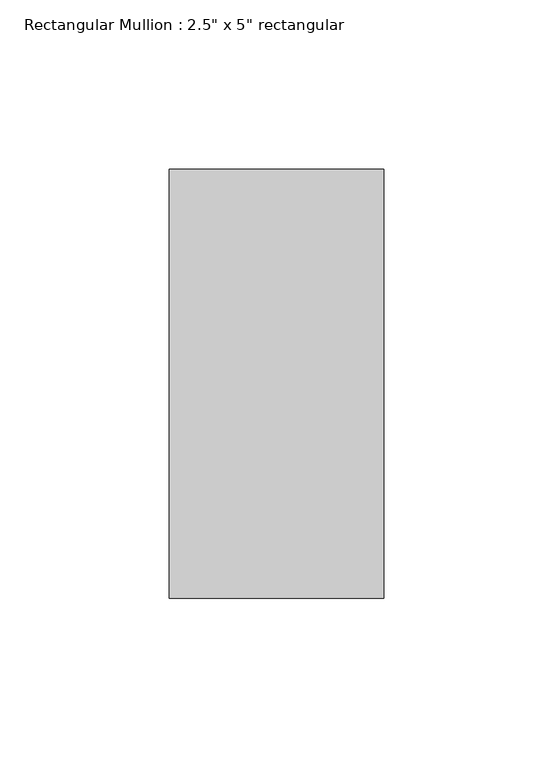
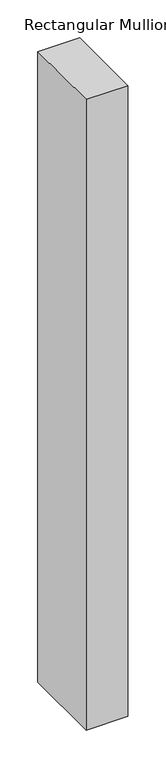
"""IFC4 building model written with IfcOpenShell, lengths in millimetres: member geometry."""

import ifcopenshell
import ifcopenshell.guid

model = None  # the IFC model being written
_history = None  # IfcOwnerHistory: only IFC2X3 demands one
_inside = {}  # id of a spatial element -> (the spatial element, [elements in it])
_under = {}  # id of a project, library or spatial element -> (it, [spatial elements below it])
_declared = {}  # id of a project -> (the project, [libraries it declares])
_typed = {}  # id of a type object -> (the type object, [elements of that type])
_made_of = {}  # id of a material, layer set ... -> (it, [elements and type objects made of it])


def new_model(schema):
    """Start an empty IFC model of exactly this schema.

    Asked for "IFC4X3", IfcOpenShell would pick the latest addendum, in which some entities
    have other attributes; the version numbers below select the first issue.
    IFC2X3 requires an IfcOwnerHistory on every rooted entity: one is made here for all.
    """
    global model, _history
    if schema == "IFC4X3":
        model = ifcopenshell.file(schema_version=(4, 3, 0, 0))
    else:
        model = ifcopenshell.file(schema=schema)
    _inside.clear()
    _under.clear()
    _declared.clear()
    _typed.clear()
    _made_of.clear()
    _history = None
    if model.schema == "IFC2X3":
        org = make("IfcOrganization", Name="unknown")
        user = make(
            "IfcPersonAndOrganization",
            ThePerson=make("IfcPerson", FamilyName="unknown"),
            TheOrganization=org,
        )
        app = make(
            "IfcApplication",
            ApplicationDeveloper=org,
            Version="unknown",
            ApplicationFullName="unknown",
            ApplicationIdentifier="unknown",
        )
        _history = make(
            "IfcOwnerHistory",
            OwningUser=user,
            OwningApplication=app,
            ChangeAction="ADDED",
            CreationDate=0,
        )
    return model


def make(cls, **values):
    """One entity of the class cls with the attributes given. An attribute that is None is left unset."""
    return model.create_entity(
        cls, **{name: value for name, value in values.items() if value is not None}
    )


def rooted(cls, **values):
    """An entity with a GlobalId (a new one), such as an element, a storey or a relation."""
    return make(cls, GlobalId=ifcopenshell.guid.new(), OwnerHistory=_history, **values)


def si_unit(unit_type, name, prefix=None):
    """IfcSIUnit, for example si_unit("LENGTHUNIT", "METRE", prefix="MILLI")."""
    return make("IfcSIUnit", UnitType=unit_type, Prefix=prefix, Name=name)


def assignment(units):
    """IfcUnitAssignment: the units of a project."""
    return None if units is None else make("IfcUnitAssignment", Units=units)


def point(xyz):
    """IfcCartesianPoint."""
    return None if xyz is None else make("IfcCartesianPoint", Coordinates=xyz)


def direction(xyz):
    """IfcDirection."""
    return None if xyz is None else make("IfcDirection", DirectionRatios=xyz)


def frame(location, z_axis=None, x_axis=None):
    """IfcAxis2Placement3D, a coordinate frame: its origin and axes. An axis left out is left unset."""
    return make(
        "IfcAxis2Placement3D",
        Location=point(location),
        Axis=direction(z_axis),
        RefDirection=direction(x_axis),
    )


def origin():
    """The frame at (0, 0, 0) with its axes left unset."""
    return frame((0.0, 0.0, 0.0))


def place(relative_to, where):
    """IfcLocalPlacement: puts the frame where relative to a parent placement (None: the world)."""
    return make(
        "IfcLocalPlacement", PlacementRelTo=relative_to, RelativePlacement=where
    )


def context(
    kind, dimensions, precision=None, world=None, true_north=None, identifier=None
):
    """IfcGeometricRepresentationContext, for example the 3D "Model" context."""
    return make(
        "IfcGeometricRepresentationContext",
        ContextIdentifier=identifier,
        ContextType=kind,
        CoordinateSpaceDimension=dimensions,
        Precision=precision,
        WorldCoordinateSystem=world,
        TrueNorth=true_north,
    )


def project(units=None, contexts=None):
    """IfcProject with its units and contexts."""
    return rooted(
        "IfcProject",
        Name="project",
        RepresentationContexts=contexts,
        UnitsInContext=assignment(units),
    )


def spatial(cls, under=None, at=None, **own):
    """A site, building, storey or space (cls), placed at a placement, below another one or the project."""
    s = rooted(cls, ObjectPlacement=at, **own)
    if under is not None:
        _under.setdefault(under.id(), (under, []))[1].append(s)
    return s


def polyline(points):
    """IfcPolyline through the points."""
    return make("IfcPolyline", Points=[point(p) for p in points])


def outline(outer, holes=None, kind="AREA"):
    """IfcArbitraryClosedProfileDef: a profile drawn as a closed curve; with holes, ...WithVoids."""
    if holes is None:
        return make("IfcArbitraryClosedProfileDef", ProfileType=kind, OuterCurve=outer)
    return make(
        "IfcArbitraryProfileDefWithVoids",
        ProfileType=kind,
        OuterCurve=outer,
        InnerCurves=holes,
    )


def extrude(swept, where, along, depth):
    """IfcExtrudedAreaSolid: the profile swept, set in the frame where, extruded along a direction by depth."""
    return make(
        "IfcExtrudedAreaSolid",
        SweptArea=swept,
        Position=where,
        ExtrudedDirection=direction(along),
        Depth=depth,
    )


def shape(context_of_items, identifier, shape_type, items):
    """IfcShapeRepresentation: the items that make up one representation, for example the "Body"."""
    return make(
        "IfcShapeRepresentation",
        ContextOfItems=context_of_items,
        RepresentationIdentifier=identifier,
        RepresentationType=shape_type,
        Items=items,
    )


def source(mapping_origin, context_of_items, identifier, shape_type, items):
    """IfcRepresentationMap: a shape defined once, which mapped items show again and again."""
    return make(
        "IfcRepresentationMap",
        MappingOrigin=mapping_origin,
        MappedRepresentation=shape(context_of_items, identifier, shape_type, items),
    )


def transform(
    local_origin,
    x_axis=None,
    y_axis=None,
    z_axis=None,
    scale=None,
    scale2=None,
    scale3=None,
    uniform=True,
):
    """IfcCartesianTransformationOperator3D, or its non-uniform kind. x_axis, y_axis, z_axis: its Axis1, 2, 3."""
    if uniform:
        return make(
            "IfcCartesianTransformationOperator3D",
            Axis1=direction(x_axis),
            Axis2=direction(y_axis),
            LocalOrigin=point(local_origin),
            Scale=scale,
            Axis3=direction(z_axis),
        )
    return make(
        "IfcCartesianTransformationOperator3DnonUniform",
        Axis1=direction(x_axis),
        Axis2=direction(y_axis),
        LocalOrigin=point(local_origin),
        Scale=scale,
        Axis3=direction(z_axis),
        Scale2=scale2,
        Scale3=scale3,
    )


def mapped(mapping_source, mapping_target):
    """IfcMappedItem: shows the shape of a source again, moved by a transform."""
    return make(
        "IfcMappedItem", MappingSource=mapping_source, MappingTarget=mapping_target
    )


def made_of(thing, what):
    """Note that an element or type object is made of a material, layer set ...; save() writes the relation."""
    if what is not None:
        _made_of.setdefault(what.id(), (what, []))[1].append(thing)
    return thing


def element(
    cls,
    number,
    at=None,
    inside=None,
    cuts=None,
    type_object=None,
    material=None,
    context=None,
    identifier="Body",
    shape_type=None,
    held_by="IfcProductDefinitionShape",
    body=None,
    shapes=None,
    **own,
):
    """One element of the class cls, such as IfcWall. Its Tag is "e" and its number.

    at: its placement. inside: the storey or other place that contains it. cuts: it is an
    opening in that element (IfcRelVoidsElement). A single representation is given by context,
    identifier, shape_type and body (its items); several are given by shapes. held_by: the class
    of the entity that holds the representations. save() writes the other relations.
    """
    e = rooted(cls, Tag="e%d" % number, ObjectPlacement=at, **own)
    if body is not None:
        shapes = [shape(context, identifier, shape_type, body)]
    if shapes is not None:
        e.Representation = make(held_by, Representations=shapes)
    if inside is not None:
        _inside.setdefault(inside.id(), (inside, []))[1].append(e)
    if cuts is not None:
        rooted(
            "IfcRelVoidsElement", RelatingBuildingElement=cuts, RelatedOpeningElement=e
        )
    if type_object is not None:
        _typed.setdefault(type_object.id(), (type_object, []))[1].append(e)
    return made_of(e, material)


def aggregate(whole, parts):
    """IfcRelAggregates: a whole, such as a stair, and the parts it consists of."""
    return rooted("IfcRelAggregates", RelatingObject=whole, RelatedObjects=parts)


def save(model, path):
    """Write the relations noted so far, then the file.

    IfcRelAggregates (storeys below a building ...), IfcRelContainedInSpatialStructure (elements
    in a storey), IfcRelDefinesByType, IfcRelAssociatesMaterial and IfcRelDeclares: one each for
    every whole, place, type object, material and project.
    """
    for whole, parts in _under.values():
        aggregate(whole, parts)
    for where, things in _inside.values():
        rooted(
            "IfcRelContainedInSpatialStructure",
            RelatedElements=things,
            RelatingStructure=where,
        )
    for kind, things in _typed.values():
        rooted("IfcRelDefinesByType", RelatedObjects=things, RelatingType=kind)
    for what, things in _made_of.values():
        rooted("IfcRelAssociatesMaterial", RelatedObjects=things, RelatingMaterial=what)
    for by, libraries in _declared.values():
        rooted("IfcRelDeclares", RelatingContext=by, RelatedDefinitions=libraries)
    model.write(path)


def member_f92b8aa2(model_context):
    return source(origin(), model_context, "Body", "SweptSolid", [
        extrude(outline(polyline([(31.75, 63.5), (31.75, -63.5), (-31.75, -63.5), (-31.75, 63.5), (31.75, 63.5)])), frame((0.0, 0.0, -1016.0), z_axis=(0.0, 0.0, 1.0), x_axis=(1.0, 0.0, 0.0)), (0.0, 0.0, 1.0), 1016.0),
    ])


if __name__ == "__main__":
    model = new_model("IFC4")
    model_context = context("Model", 3, world=origin())
    ifc_project = project(units=[si_unit("LENGTHUNIT", "METRE", prefix="MILLI")], contexts=[model_context])
    site = spatial("IfcSite", under=ifc_project)
    building = spatial("IfcBuilding", under=site)
    placement = place(None, origin())
    member_shape = member_f92b8aa2(model_context)
    element("IfcMember", 1, ObjectType="Rectangular Mullion : 2.5\" x 5\" rectangular", at=placement, inside=building, context=model_context, shape_type="MappedRepresentation", body=[
        mapped(member_shape, transform((0.0, 0.0, 0.0), x_axis=(1.0, 0.0, 0.0), y_axis=(0.0, 1.0, 0.0), z_axis=(0.0, 0.0, 1.0))),
    ])
    save(model, "model.ifc")
